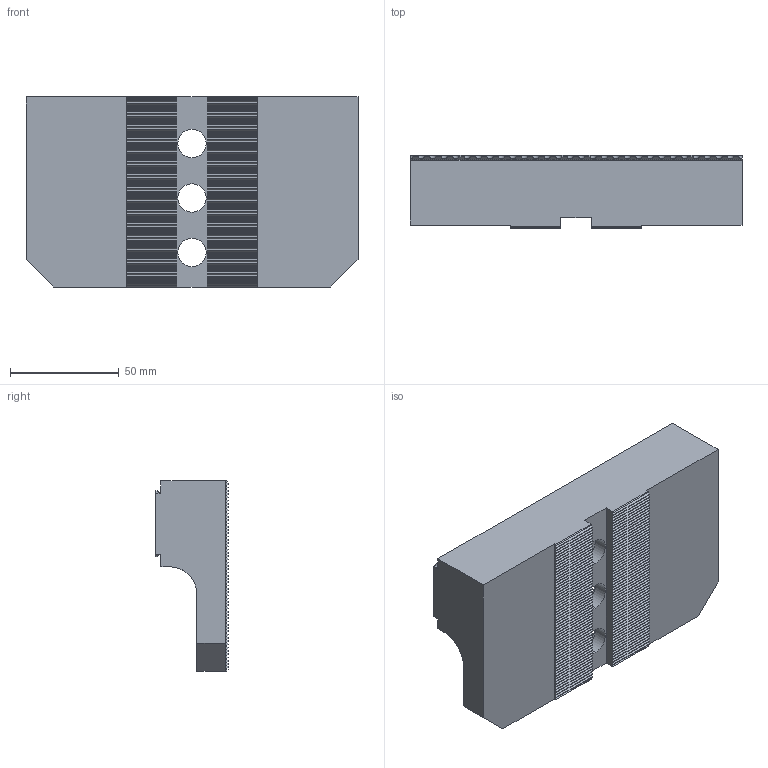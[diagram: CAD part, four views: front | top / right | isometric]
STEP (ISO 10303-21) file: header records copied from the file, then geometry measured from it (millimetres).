
FILE_DESCRIPTION (( 'STEP AP203' ), '1' );
FILE_NAME ('05-0171.STEP', '2021-09-14T23:14:46', ( '' ), ( '' ), 'SwSTEP 2.0', 'SolidWorks 2020', '' );
FILE_SCHEMA (( 'CONFIG_CONTROL_DESIGN' ));
Length unit declared in the file: inch
Products named in the file (1): 05-0171
Bounding box: 152.4 x 33.58 x 87.23 mm (x, y, z)
Volume: 274075.4 mm3; surface area: 44878.8 mm2
Topology: 1 solids, 1 shells, 741 faces, 2211 edges, 1474 vertices
Faces by surface type: plane 432, cylinder 309
Entity records: 25212 total; most frequent: CARTESIAN_POINT 5185, ORIENTED_EDGE 4422, DIRECTION 3959, EDGE_CURVE 2211, VECTOR 1591, LINE 1591, VERTEX_POINT 1474, AXIS2_PLACEMENT_3D 1184
